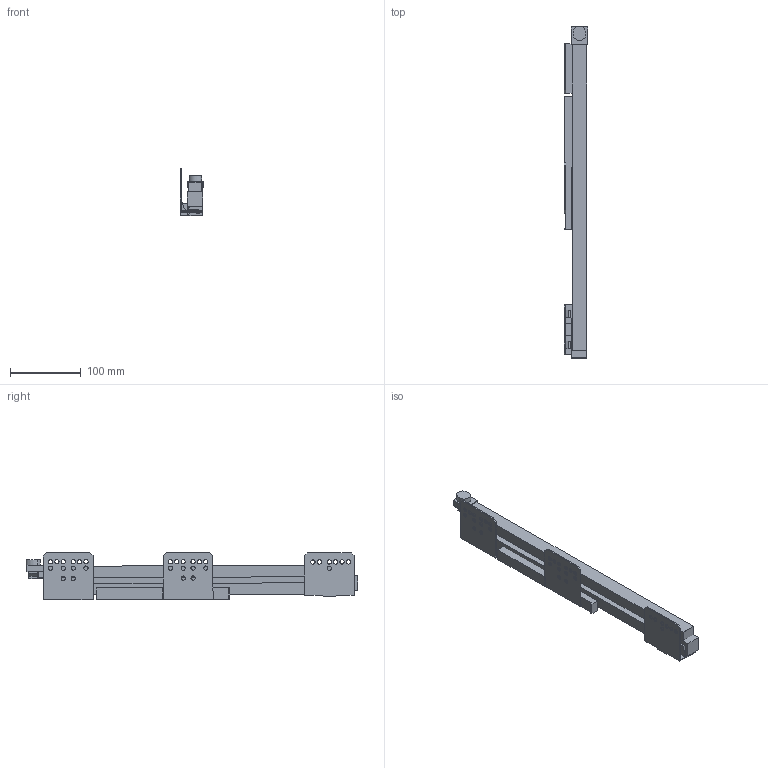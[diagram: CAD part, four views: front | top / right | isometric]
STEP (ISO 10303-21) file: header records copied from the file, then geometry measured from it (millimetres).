
FILE_DESCRIPTION (( 'STEP AP214' ), '1' );
FILE_NAME ('_IMOS Dynamic-XP VA 60kg NL450 LI Tipmatic.step', '2010-07-08T13:26:55', ( 'grass' ), ( '' ), 'SwSTEP 2.0', 'SolidWorks 2010', '' );
FILE_SCHEMA (( 'AUTOMOTIVE_DESIGN' ));
Length unit declared in the file: millimetre
Products named in the file (1): _IMOS Dynamic-XP VA 60kg NL450 LI Tipmatic
Bounding box: 33.14 x 468.02 x 66.67 mm (x, y, z)
Volume: 444360 mm3; surface area: 172682.4 mm2
Topology: 9 solids, 9 shells, 238 faces, 652 edges, 434 vertices
Faces by surface type: plane 167, cylinder 71
Entity records: 7758 total; most frequent: CARTESIAN_POINT 1325, ORIENTED_EDGE 1304, DIRECTION 1274, EDGE_CURVE 652, VECTOR 508, LINE 508, VERTEX_POINT 434, AXIS2_PLACEMENT_3D 383
